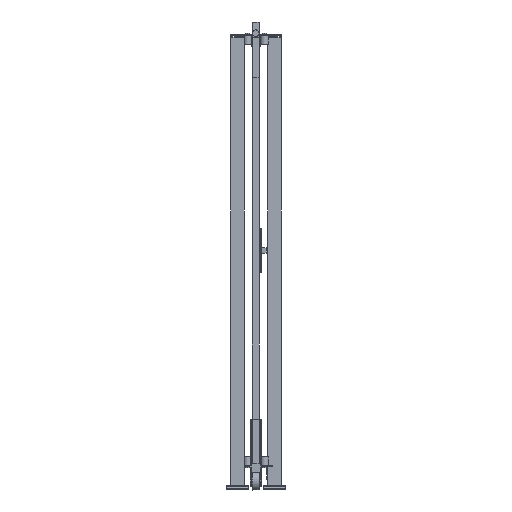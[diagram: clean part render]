
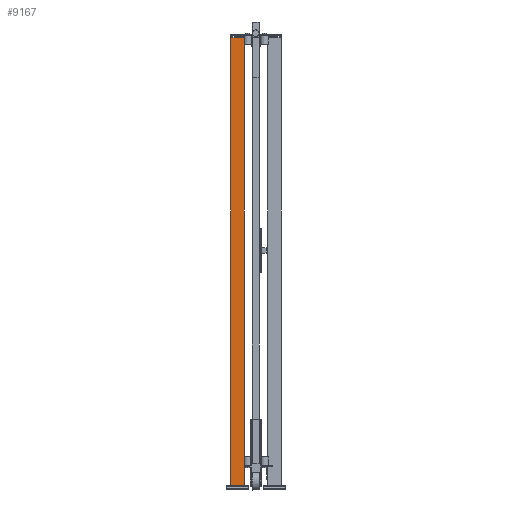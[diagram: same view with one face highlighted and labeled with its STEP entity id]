
A CAD part, left-side view. The second image highlights one B-rep face of the part: STEP entity #9167.
In plain terms, the highlighted planar face has unit normal (-1, 0, 0) as drawn and (0, 1, 0) by its records, which use the part's own axes.
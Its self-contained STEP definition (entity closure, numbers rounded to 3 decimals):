
#935=FACE_OUTER_BOUND('',#1619,.T.);
#1619=EDGE_LOOP('',(#5725,#5726,#5727,#5728));
#2402=VERTEX_POINT('',#18809);
#2403=VERTEX_POINT('',#18811);
#2405=VERTEX_POINT('',#18817);
#2408=VERTEX_POINT('',#18822);
#3718=EDGE_CURVE('',#2402,#2403,#10600,.T.);
#3724=EDGE_CURVE('',#2408,#2405,#10606,.T.);
#3727=EDGE_CURVE('',#2403,#2408,#10609,.T.);
#3728=EDGE_CURVE('',#2402,#2405,#10610,.T.);
#5725=ORIENTED_EDGE('',*,*,#3728,.T.);
#5726=ORIENTED_EDGE('',*,*,#3724,.F.);
#5727=ORIENTED_EDGE('',*,*,#3727,.F.);
#5728=ORIENTED_EDGE('',*,*,#3718,.F.);
#8543=PLANE('',#13527);
#9167=ADVANCED_FACE('',(#935),#8543,.F.);
#10600=LINE('',#18812,#12170);
#10606=LINE('',#18824,#12176);
#10609=LINE('',#18829,#12179);
#10610=LINE('',#18831,#12180);
#12170=VECTOR('',#14990,1.);
#12176=VECTOR('',#14998,1.);
#12179=VECTOR('',#15005,1.);
#12180=VECTOR('',#15008,1.);
#13527=AXIS2_PLACEMENT_3D('',#18830,#15006,#15007);
#14990=DIRECTION('',(-1.,0.,0.));
#14998=DIRECTION('',(1.,0.,0.));
#15005=DIRECTION('',(0.,0.,-1.));
#15006=DIRECTION('center_axis',(0.,-1.,0.));
#15007=DIRECTION('ref_axis',(0.,0.,-1.));
#15008=DIRECTION('',(0.,0.,-1.));
#18809=CARTESIAN_POINT('',(30.,30.,2020.));
#18811=CARTESIAN_POINT('',(-30.,30.,2020.));
#18812=CARTESIAN_POINT('',(0.,30.,2020.));
#18817=CARTESIAN_POINT('',(30.,30.,20.));
#18822=CARTESIAN_POINT('',(-30.,30.,20.));
#18824=CARTESIAN_POINT('',(0.,30.,20.));
#18829=CARTESIAN_POINT('',(-30.,30.,1020.));
#18830=CARTESIAN_POINT('Origin',(0.,30.,
1020.));
#18831=CARTESIAN_POINT('',(30.,30.,1020.));
